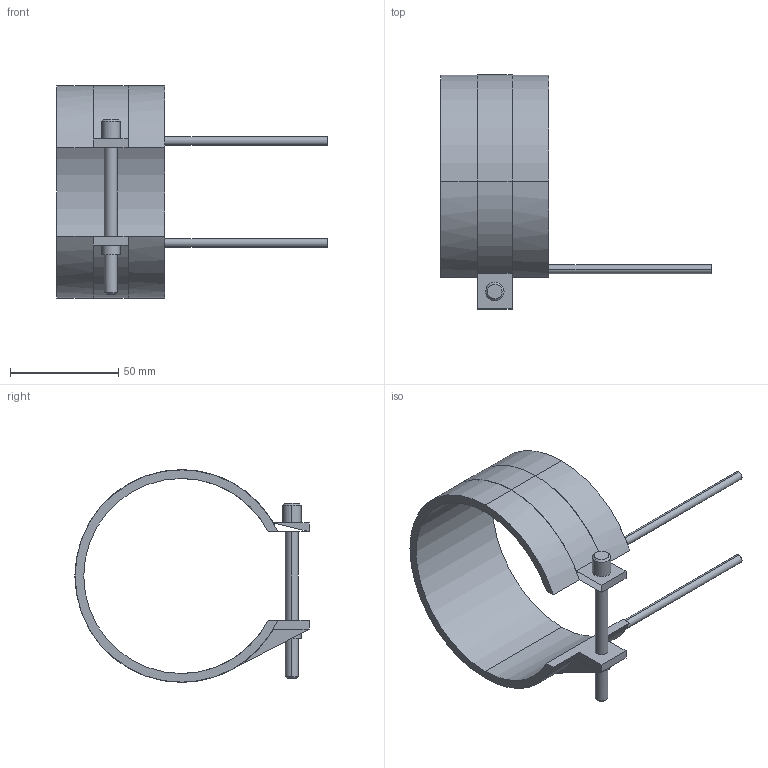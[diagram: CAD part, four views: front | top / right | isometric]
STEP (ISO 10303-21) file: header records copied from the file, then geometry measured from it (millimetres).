
FILE_DESCRIPTION(('CATIA V5 STEP Exchange'),'2;1');
FILE_NAME('C:\Users\Utente\Desktop\IO LAVORO\3D X SITO CF\X SITO\PLASTICA\RF2\14090050.stp','2021-04-06T16:09:52+00:00',('none'),('none'),'CATIA Version 5 Release 20 GA (IN-10)','CATIA V5 STEP AP203','none');
FILE_SCHEMA(('CONFIG_CONTROL_DESIGN'));
Length unit declared in the file: millimetre
Products named in the file (1): 14090050
Bounding box: 125 x 108.1 x 98.2 mm (x, y, z)
Volume: 57299.2 mm3; surface area: 32325.8 mm2
Topology: 1 solids, 1 shells, 45 faces, 116 edges, 76 vertices
Faces by surface type: cylinder 24, plane 17, cone 4
Entity records: 1412 total; most frequent: CARTESIAN_POINT 288, ORIENTED_EDGE 232, DIRECTION 195, EDGE_CURVE 116, AXIS2_PLACEMENT_3D 103, VERTEX_POINT 76, CIRCLE 61, VECTOR 52
